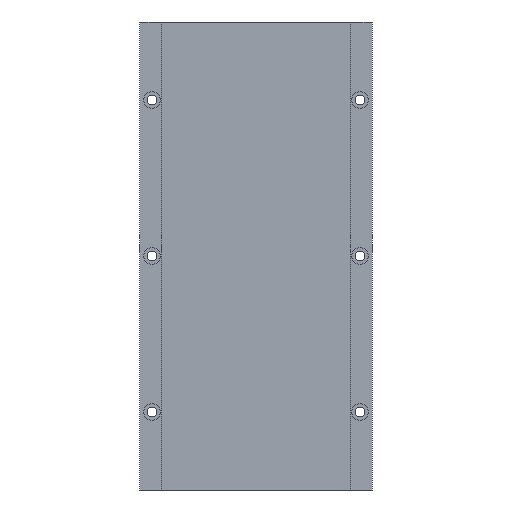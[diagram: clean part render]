
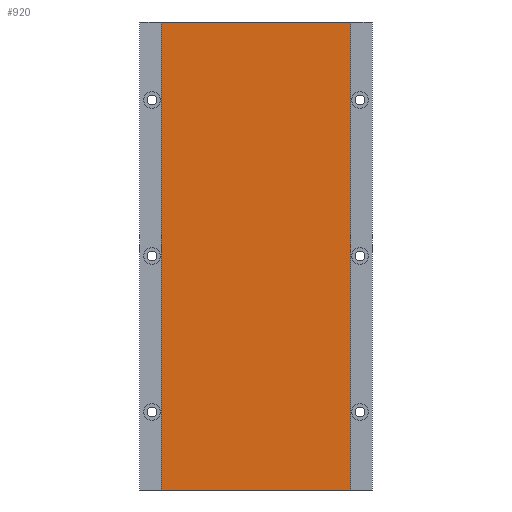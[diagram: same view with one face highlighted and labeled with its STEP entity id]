
A CAD part, left-side view. The second image highlights one B-rep face of the part: STEP entity #920.
In plain terms, the highlighted planar face has unit normal (-1, 0, 0).
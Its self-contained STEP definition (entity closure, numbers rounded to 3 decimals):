
#3 = EDGE_CURVE ( 'NONE', #27, #200, #60, .T. ) ;
#8 = VECTOR ( 'NONE', #433, 1000. ) ;
#9 = EDGE_CURVE ( 'NONE', #309, #27, #378, .T. ) ;
#27 = VERTEX_POINT ( 'NONE', #886 ) ;
#60 = LINE ( 'NONE', #315, #524 ) ;
#64 = FACE_OUTER_BOUND ( 'NONE', #1136, .T. ) ;
#111 = DIRECTION ( 'NONE',  ( 0., 0., -1. ) ) ;
#146 = CARTESIAN_POINT ( 'NONE',  ( -7.8, 51.1, 252. ) ) ;
#166 = EDGE_CURVE ( 'NONE', #309, #1106, #522, .T. ) ;
#200 = VERTEX_POINT ( 'NONE', #883 ) ;
#212 = CARTESIAN_POINT ( 'NONE',  ( -7.8, 0., 252. ) ) ;
#288 = VECTOR ( 'NONE', #111, 1000. ) ;
#309 = VERTEX_POINT ( 'NONE', #1117 ) ;
#315 = CARTESIAN_POINT ( 'NONE',  ( -7.8, 0., 0. ) ) ;
#336 = CARTESIAN_POINT ( 'NONE',  ( -7.8, 51.1, 252. ) ) ;
#378 = LINE ( 'NONE', #1187, #288 ) ;
#403 = DIRECTION ( 'NONE',  ( 0., 1., 0. ) ) ;
#433 = DIRECTION ( 'NONE',  ( 0., 0., -1. ) ) ;
#498 = PLANE ( 'NONE',  #579 ) ;
#522 = LINE ( 'NONE', #531, #1156 ) ;
#524 = VECTOR ( 'NONE', #403, 1000. ) ;
#531 = CARTESIAN_POINT ( 'NONE',  ( -7.8, 0., 252. ) ) ;
#563 = EDGE_CURVE ( 'NONE', #1106, #200, #904, .T. ) ;
#579 = AXIS2_PLACEMENT_3D ( 'NONE', #212, #992, #984 ) ;
#600 = DIRECTION ( 'NONE',  ( 0., 1., 0. ) ) ;
#623 = ORIENTED_EDGE ( 'NONE', *, *, #563, .T. ) ;
#659 = ORIENTED_EDGE ( 'NONE', *, *, #3, .F. ) ;
#800 = ORIENTED_EDGE ( 'NONE', *, *, #9, .F. ) ;
#883 = CARTESIAN_POINT ( 'NONE',  ( -7.8, 51.1, 0. ) ) ;
#886 = CARTESIAN_POINT ( 'NONE',  ( -7.8, -51.1, 0. ) ) ;
#904 = LINE ( 'NONE', #336, #8 ) ;
#920 = ADVANCED_FACE ( 'NONE', ( #64 ), #498, .T. ) ;
#984 = DIRECTION ( 'NONE',  ( 0., 0., 1. ) ) ;
#992 = DIRECTION ( 'NONE',  ( -1., 0., 0. ) ) ;
#1106 = VERTEX_POINT ( 'NONE', #146 ) ;
#1117 = CARTESIAN_POINT ( 'NONE',  ( -7.8, -51.1, 252. ) ) ;
#1136 = EDGE_LOOP ( 'NONE', ( #659, #800, #1244, #623 ) ) ;
#1156 = VECTOR ( 'NONE', #600, 1000. ) ;
#1187 = CARTESIAN_POINT ( 'NONE',  ( -7.8, -51.1, 252. ) ) ;
#1244 = ORIENTED_EDGE ( 'NONE', *, *, #166, .T. ) ;
